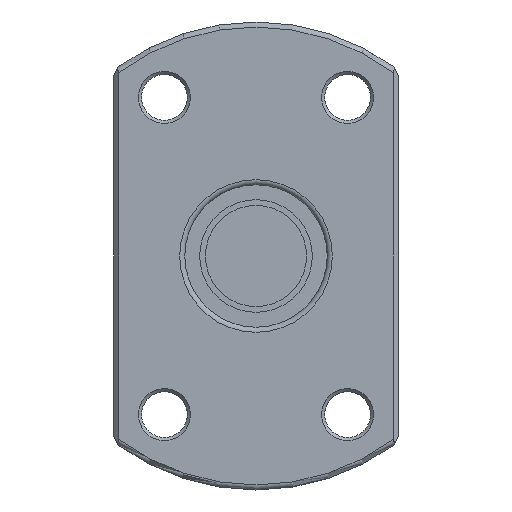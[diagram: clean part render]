
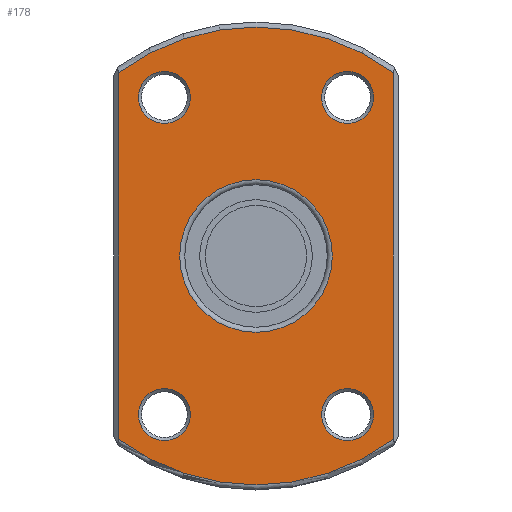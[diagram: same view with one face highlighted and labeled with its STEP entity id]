
A CAD part, front view. The second image highlights one B-rep face of the part: STEP entity #178.
In plain terms, the highlighted planar face has unit normal (0, -1, 0).
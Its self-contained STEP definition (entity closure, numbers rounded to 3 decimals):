
#55=LINE('',#1023,#79);
#56=LINE('',#1027,#80);
#79=VECTOR('',#832,1.);
#80=VECTOR('',#835,1.);
#137=PLANE('',#729);
#178=ADVANCED_FACE('',(#237,#238,#239,#240,#241,#242),#137,.T.);
#237=FACE_BOUND('',#299,.T.);
#238=FACE_BOUND('',#300,.T.);
#239=FACE_BOUND('',#301,.T.);
#240=FACE_BOUND('',#302,.T.);
#241=FACE_BOUND('',#303,.T.);
#242=FACE_BOUND('',#304,.T.);
#299=EDGE_LOOP('',(#379));
#300=EDGE_LOOP('',(#380));
#301=EDGE_LOOP('',(#381));
#302=EDGE_LOOP('',(#382));
#303=EDGE_LOOP('',(#383));
#304=EDGE_LOOP('',(#384,#385,#386,#387));
#379=ORIENTED_EDGE('',*,*,#598,.T.);
#380=ORIENTED_EDGE('',*,*,#599,.T.);
#381=ORIENTED_EDGE('',*,*,#600,.T.);
#382=ORIENTED_EDGE('',*,*,#601,.T.);
#383=ORIENTED_EDGE('',*,*,#602,.T.);
#384=ORIENTED_EDGE('',*,*,#603,.T.);
#385=ORIENTED_EDGE('',*,*,#604,.T.);
#386=ORIENTED_EDGE('',*,*,#605,.T.);
#387=ORIENTED_EDGE('',*,*,#606,.T.);
#535=VERTEX_POINT('',#1011);
#536=VERTEX_POINT('',#1013);
#537=VERTEX_POINT('',#1015);
#538=VERTEX_POINT('',#1017);
#539=VERTEX_POINT('',#1019);
#540=VERTEX_POINT('',#1021);
#541=VERTEX_POINT('',#1022);
#542=VERTEX_POINT('',#1024);
#543=VERTEX_POINT('',#1026);
#598=EDGE_CURVE('',#535,#535,#677,.T.);
#599=EDGE_CURVE('',#536,#536,#678,.T.);
#600=EDGE_CURVE('',#537,#537,#679,.T.);
#601=EDGE_CURVE('',#538,#538,#680,.T.);
#602=EDGE_CURVE('',#539,#539,#681,.T.);
#603=EDGE_CURVE('',#540,#541,#682,.T.);
#604=EDGE_CURVE('',#541,#542,#55,.T.);
#605=EDGE_CURVE('',#542,#543,#683,.T.);
#606=EDGE_CURVE('',#543,#540,#56,.T.);
#677=CIRCLE('',#722,2.55);
#678=CIRCLE('',#723,2.55);
#679=CIRCLE('',#724,2.55);
#680=CIRCLE('',#725,2.55);
#681=CIRCLE('',#726,7.5);
#682=CIRCLE('',#727,22.5);
#683=CIRCLE('',#728,22.5);
#722=AXIS2_PLACEMENT_3D('',#1010,#820,#821);
#723=AXIS2_PLACEMENT_3D('',#1012,#822,#823);
#724=AXIS2_PLACEMENT_3D('',#1014,#824,#825);
#725=AXIS2_PLACEMENT_3D('',#1016,#826,#827);
#726=AXIS2_PLACEMENT_3D('',#1018,#828,#829);
#727=AXIS2_PLACEMENT_3D('',#1020,#830,#831);
#728=AXIS2_PLACEMENT_3D('',#1025,#833,#834);
#729=AXIS2_PLACEMENT_3D('',#1028,#836,#837);
#820=DIRECTION('',(0.,1.,0.));
#821=DIRECTION('',(0.,0.,-1.));
#822=DIRECTION('',(0.,1.,0.));
#823=DIRECTION('',(0.,0.,-1.));
#824=DIRECTION('',(0.,1.,0.));
#825=DIRECTION('',(0.,0.,-1.));
#826=DIRECTION('',(0.,1.,0.));
#827=DIRECTION('',(0.,0.,-1.));
#828=DIRECTION('',(0.,1.,0.));
#829=DIRECTION('',(0.,0.,-1.));
#830=DIRECTION('',(0.,-1.,0.));
#831=DIRECTION('',(0.,0.,-1.));
#832=DIRECTION('',(0.,0.,1.));
#833=DIRECTION('',(0.,-1.,0.));
#834=DIRECTION('',(0.,0.,-1.));
#835=DIRECTION('',(0.,0.,-1.));
#836=DIRECTION('',(0.,-1.,0.));
#837=DIRECTION('',(0.,0.,-1.));
#1010=CARTESIAN_POINT('',(9.,0.,-15.588));
#1011=CARTESIAN_POINT('',(9.,0.,-18.138));
#1012=CARTESIAN_POINT('',(-9.,0.,-15.588));
#1013=CARTESIAN_POINT('',(-9.,0.,-18.138));
#1014=CARTESIAN_POINT('',(-9.,0.,15.588));
#1015=CARTESIAN_POINT('',(-9.,0.,13.038));
#1016=CARTESIAN_POINT('',(9.,0.,15.588));
#1017=CARTESIAN_POINT('',(9.,0.,13.038));
#1018=CARTESIAN_POINT('',(0.,0.,0.));
#1019=CARTESIAN_POINT('',(0.,0.,-7.5));
#1020=CARTESIAN_POINT('',(0.,0.,0.));
#1021=CARTESIAN_POINT('',(-13.5,0.,-18.));
#1022=CARTESIAN_POINT('',(13.5,0.,-18.));
#1023=CARTESIAN_POINT('',(13.5,0.,17.614));
#1024=CARTESIAN_POINT('',(13.5,0.,18.));
#1025=CARTESIAN_POINT('',(0.,0.,0.));
#1026=CARTESIAN_POINT('',(-13.5,0.,18.));
#1027=CARTESIAN_POINT('',(-13.5,0.,-17.614));
#1028=CARTESIAN_POINT('',(0.,0.,0.));
